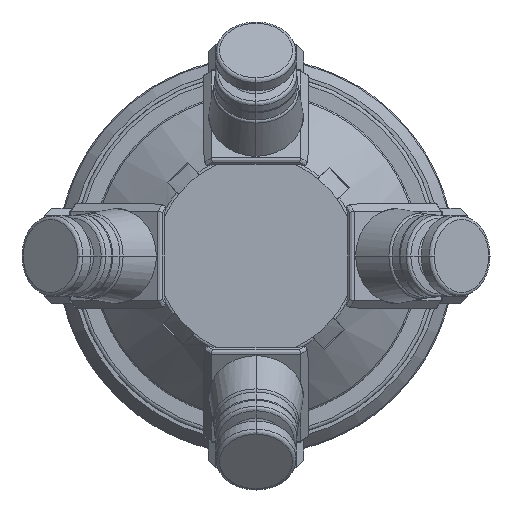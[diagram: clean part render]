
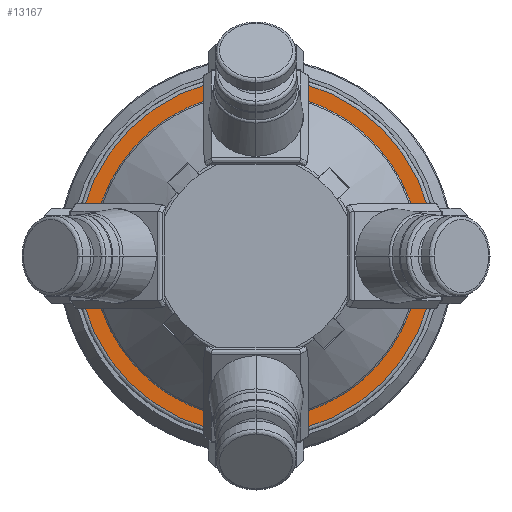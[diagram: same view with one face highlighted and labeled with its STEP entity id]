
A CAD part, front view. The second image highlights one B-rep face of the part: STEP entity #13167.
In plain terms, the highlighted free-form (B-spline) face has degree [1, 1] with [2, 2] control points.
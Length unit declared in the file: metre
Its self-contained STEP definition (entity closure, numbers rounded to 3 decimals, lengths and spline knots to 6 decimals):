
#601=LINE('',#23383,#1595);
#603=LINE('',#23390,#1597);
#605=LINE('',#23397,#1599);
#606=LINE('',#23443,#1600);
#608=LINE('',#23450,#1602);
#610=LINE('',#23457,#1604);
#612=LINE('',#23464,#1606);
#614=LINE('',#23471,#1608);
#617=LINE('',#23501,#1611);
#621=LINE('',#23533,#1615);
#623=LINE('',#23540,#1617);
#625=LINE('',#23547,#1619);
#627=LINE('',#23554,#1621);
#628=LINE('',#23600,#1622);
#630=LINE('',#23607,#1624);
#631=LINE('',#23612,#1625);
#678=LINE('',#23939,#1672);
#691=LINE('',#24095,#1685);
#692=LINE('',#24097,#1686);
#693=LINE('',#24098,#1687);
#1595=VECTOR('',#15576,1.);
#1597=VECTOR('',#15578,1.);
#1599=VECTOR('',#15580,1.);
#1600=VECTOR('',#15583,1.);
#1602=VECTOR('',#15585,1.);
#1604=VECTOR('',#15587,1.);
#1606=VECTOR('',#15589,1.);
#1608=VECTOR('',#15591,1.);
#1611=VECTOR('',#15594,1.);
#1615=VECTOR('',#15598,1.);
#1617=VECTOR('',#15600,1.);
#1619=VECTOR('',#15602,1.);
#1621=VECTOR('',#15604,1.);
#1622=VECTOR('',#15607,1.);
#1624=VECTOR('',#15609,1.);
#1625=VECTOR('',#15610,1.);
#1672=VECTOR('',#15681,1.);
#1685=VECTOR('',#15710,1.);
#1686=VECTOR('',#15711,1.);
#1687=VECTOR('',#15712,1.);
#2514=B_SPLINE_SURFACE_WITH_KNOTS('',1,1,((#24091,#24092),(#24093,#24094)),
 .PLANE_SURF.,.F.,.F.,.F.,(2,2),(2,2),(0.,1.),(0.,1.),.UNSPECIFIED.);
#5532=ORIENTED_EDGE('',*,*,#8251,.T.);
#5533=ORIENTED_EDGE('',*,*,#8249,.T.);
#5534=ORIENTED_EDGE('',*,*,#8247,.T.);
#5535=ORIENTED_EDGE('',*,*,#8245,.T.);
#5536=ORIENTED_EDGE('',*,*,#8243,.T.);
#5537=ORIENTED_EDGE('',*,*,#8241,.F.);
#5538=ORIENTED_EDGE('',*,*,#8239,.T.);
#5539=ORIENTED_EDGE('',*,*,#8231,.T.);
#5540=ORIENTED_EDGE('',*,*,#8344,.T.);
#5541=ORIENTED_EDGE('',*,*,#8346,.F.);
#5542=ORIENTED_EDGE('',*,*,#8347,.F.);
#5543=ORIENTED_EDGE('',*,*,#8252,.T.);
#5544=ORIENTED_EDGE('',*,*,#8320,.F.);
#5545=ORIENTED_EDGE('',*,*,#8348,.F.);
#5546=ORIENTED_EDGE('',*,*,#8278,.T.);
#5547=ORIENTED_EDGE('',*,*,#8224,.F.);
#5548=ORIENTED_EDGE('',*,*,#8222,.F.);
#5549=ORIENTED_EDGE('',*,*,#8220,.T.);
#5550=ORIENTED_EDGE('',*,*,#8218,.F.);
#5551=ORIENTED_EDGE('',*,*,#8216,.F.);
#5552=ORIENTED_EDGE('',*,*,#8214,.T.);
#5553=ORIENTED_EDGE('',*,*,#8212,.T.);
#5554=ORIENTED_EDGE('',*,*,#8210,.T.);
#5555=ORIENTED_EDGE('',*,*,#8208,.F.);
#5556=ORIENTED_EDGE('',*,*,#7306,.T.);
#5557=ORIENTED_EDGE('',*,*,#8206,.T.);
#7306=EDGE_CURVE('',#9182,#9181,#10402,.T.);
#8206=EDGE_CURVE('',#9181,#9182,#10491,.T.);
#8208=EDGE_CURVE('',#9761,#9762,#601,.T.);
#8210=EDGE_CURVE('',#9763,#9762,#603,.T.);
#8212=EDGE_CURVE('',#9764,#9763,#605,.T.);
#8214=EDGE_CURVE('',#9765,#9764,#10492,.T.);
#8216=EDGE_CURVE('',#9765,#9766,#606,.T.);
#8218=EDGE_CURVE('',#9766,#9767,#608,.T.);
#8220=EDGE_CURVE('',#9768,#9767,#610,.T.);
#8222=EDGE_CURVE('',#9768,#9769,#612,.T.);
#8224=EDGE_CURVE('',#9769,#9770,#614,.T.);
#8231=EDGE_CURVE('',#9776,#9777,#617,.T.);
#8239=EDGE_CURVE('',#9783,#9776,#621,.T.);
#8241=EDGE_CURVE('',#9783,#9784,#623,.T.);
#8243=EDGE_CURVE('',#9785,#9784,#625,.T.);
#8245=EDGE_CURVE('',#9786,#9785,#627,.T.);
#8247=EDGE_CURVE('',#9787,#9786,#10493,.T.);
#8249=EDGE_CURVE('',#9788,#9787,#628,.T.);
#8251=EDGE_CURVE('',#9761,#9788,#630,.T.);
#8252=EDGE_CURVE('',#9789,#9790,#631,.T.);
#8278=EDGE_CURVE('',#9808,#9770,#10500,.T.);
#8320=EDGE_CURVE('',#9834,#9790,#678,.T.);
#8344=EDGE_CURVE('',#9777,#9849,#10506,.T.);
#8346=EDGE_CURVE('',#9850,#9849,#691,.T.);
#8347=EDGE_CURVE('',#9789,#9850,#692,.T.);
#8348=EDGE_CURVE('',#9808,#9834,#693,.T.);
#9181=VERTEX_POINT('',#19357);
#9182=VERTEX_POINT('',#19359);
#9761=VERTEX_POINT('',#23382);
#9762=VERTEX_POINT('',#23384);
#9763=VERTEX_POINT('',#23391);
#9764=VERTEX_POINT('',#23398);
#9765=VERTEX_POINT('',#23433);
#9766=VERTEX_POINT('',#23444);
#9767=VERTEX_POINT('',#23451);
#9768=VERTEX_POINT('',#23458);
#9769=VERTEX_POINT('',#23465);
#9770=VERTEX_POINT('',#23472);
#9776=VERTEX_POINT('',#23502);
#9777=VERTEX_POINT('',#23503);
#9783=VERTEX_POINT('',#23534);
#9784=VERTEX_POINT('',#23541);
#9785=VERTEX_POINT('',#23548);
#9786=VERTEX_POINT('',#23555);
#9787=VERTEX_POINT('',#23590);
#9788=VERTEX_POINT('',#23601);
#9789=VERTEX_POINT('',#23613);
#9790=VERTEX_POINT('',#23614);
#9808=VERTEX_POINT('',#23755);
#9834=VERTEX_POINT('',#23937);
#9849=VERTEX_POINT('',#24085);
#9850=VERTEX_POINT('',#24096);
#10402=CIRCLE('',#13889,0.031347);
#10491=CIRCLE('',#14052,0.031347);
#10492=CIRCLE('',#14053,0.037359);
#10493=CIRCLE('',#14054,0.037359);
#10500=CIRCLE('',#14061,0.037359);
#10506=CIRCLE('',#14074,0.037359);
#11250=EDGE_LOOP('',(#5532,#5533,#5534,#5535,#5536,#5537,#5538,#5539,#5540,
#5541,#5542,#5543,#5544,#5545,#5546,#5547,#5548,#5549,#5550,#5551,#5552,
#5553,#5554,#5555));
#11251=EDGE_LOOP('',(#5556,#5557));
#12034=FACE_BOUND('',#11250,.T.);
#12035=FACE_BOUND('',#11251,.T.);
#13167=ADVANCED_FACE('',(#12034,#12035),#2514,.T.);
#13889=AXIS2_PLACEMENT_3D('',#19358,#14658,#14659);
#14052=AXIS2_PLACEMENT_3D('',#23376,#15573,#15574);
#14053=AXIS2_PLACEMENT_3D('',#23432,#15581,#15582);
#14054=AXIS2_PLACEMENT_3D('',#23589,#15605,#15606);
#14061=AXIS2_PLACEMENT_3D('',#23756,#15639,#15640);
#14074=AXIS2_PLACEMENT_3D('',#24084,#15708,#15709);
#14658=DIRECTION('',(0.,1.,0.));
#14659=DIRECTION('',(1.,0.,0.));
#15573=DIRECTION('',(0.,1.,0.));
#15574=DIRECTION('',(1.,0.,0.));
#15576=DIRECTION('',(1.,0.,0.));
#15578=DIRECTION('',(-0.707,0.,-0.707));
#15580=DIRECTION('',(0.,0.,-1.));
#15581=DIRECTION('',(0.,-1.,0.));
#15582=DIRECTION('',(-1.,0.,0.));
#15583=DIRECTION('',(-1.,0.,0.));
#15585=DIRECTION('',(-0.707,0.,-0.707));
#15587=DIRECTION('',(0.,0.,1.));
#15589=DIRECTION('',(0.707,0.,-0.707));
#15591=DIRECTION('',(1.,0.,0.));
#15594=DIRECTION('',(-1.,0.,0.));
#15598=DIRECTION('',(-0.707,0.,-0.707));
#15600=DIRECTION('',(0.,0.,1.));
#15602=DIRECTION('',(0.707,0.,-0.707));
#15604=DIRECTION('',(1.,0.,0.));
#15605=DIRECTION('',(0.,-1.,0.));
#15606=DIRECTION('',(-1.,0.,0.));
#15607=DIRECTION('',(0.,0.,1.));
#15609=DIRECTION('',(-0.707,0.,0.707));
#15610=DIRECTION('',(1.,0.,0.));
#15639=DIRECTION('',(0.,-1.,0.));
#15640=DIRECTION('',(-1.,0.,0.));
#15681=DIRECTION('',(-0.707,0.,0.707));
#15708=DIRECTION('',(0.,-1.,0.));
#15709=DIRECTION('',(-1.,0.,0.));
#15710=DIRECTION('',(0.,0.,-1.));
#15711=DIRECTION('',(-0.707,0.,-0.707));
#15712=DIRECTION('',(0.,0.,1.));
#19357=CARTESIAN_POINT('',(-0.031347,-0.037181,0.));
#19358=CARTESIAN_POINT('',(0.,-0.037181,0.));
#19359=CARTESIAN_POINT('',(0.031347,-0.037181,0.));
#23376=CARTESIAN_POINT('',(0.,-0.037181,0.));
#23382=CARTESIAN_POINT('',(-0.008407,-0.037181,0.034476));
#23383=CARTESIAN_POINT('',(-0.009931,-0.037181,0.034476));
#23384=CARTESIAN_POINT('',(0.008407,-0.037181,0.034476));
#23390=CARTESIAN_POINT('',(0.009931,-0.037181,0.036));
#23391=CARTESIAN_POINT('',(0.009931,-0.037181,0.036));
#23397=CARTESIAN_POINT('',(0.009931,-0.037181,0.032798));
#23398=CARTESIAN_POINT('',(0.009931,-0.037181,0.036015));
#23432=CARTESIAN_POINT('',(0.,-0.037181,0.));
#23433=CARTESIAN_POINT('',(0.036015,-0.037181,0.009931));
#23443=CARTESIAN_POINT('',(0.034734,-0.037181,0.009931));
#23444=CARTESIAN_POINT('',(0.036,-0.037181,0.009931));
#23450=CARTESIAN_POINT('',(0.030401,-0.037181,0.004333));
#23451=CARTESIAN_POINT('',(0.034476,-0.037181,0.008407));
#23457=CARTESIAN_POINT('',(0.034476,-0.037181,0.));
#23458=CARTESIAN_POINT('',(0.034476,-0.037181,-0.008407));
#23464=CARTESIAN_POINT('',(0.030401,-0.037181,-0.004333));
#23465=CARTESIAN_POINT('',(0.036,-0.037181,-0.009931));
#23471=CARTESIAN_POINT('',(0.034734,-0.037181,-0.009931));
#23472=CARTESIAN_POINT('',(0.036015,-0.037181,-0.009931));
#23501=CARTESIAN_POINT('',(-0.032798,-0.037181,-0.009931));
#23502=CARTESIAN_POINT('',(-0.036,-0.037181,-0.009931));
#23503=CARTESIAN_POINT('',(-0.036015,-0.037181,-0.009931));
#23533=CARTESIAN_POINT('',(-0.036,-0.037181,-0.009931));
#23534=CARTESIAN_POINT('',(-0.034476,-0.037181,-0.008407));
#23540=CARTESIAN_POINT('',(-0.034476,-0.037181,-0.009931));
#23541=CARTESIAN_POINT('',(-0.034476,-0.037181,0.008407));
#23547=CARTESIAN_POINT('',(-0.036,-0.037181,0.009931));
#23548=CARTESIAN_POINT('',(-0.036,-0.037181,0.009931));
#23554=CARTESIAN_POINT('',(-0.032798,-0.037181,0.009931));
#23555=CARTESIAN_POINT('',(-0.036015,-0.037181,0.009931));
#23589=CARTESIAN_POINT('',(0.,-0.037181,0.));
#23590=CARTESIAN_POINT('',(-0.009931,-0.037181,0.036015));
#23600=CARTESIAN_POINT('',(-0.009931,-0.037181,0.032798));
#23601=CARTESIAN_POINT('',(-0.009931,-0.037181,0.036));
#23607=CARTESIAN_POINT('',(-0.009931,-0.037181,0.036));
#23612=CARTESIAN_POINT('',(0.034734,-0.037181,-0.034476));
#23613=CARTESIAN_POINT('',(-0.008407,-0.037181,-0.034476));
#23614=CARTESIAN_POINT('',(0.008407,-0.037181,-0.034476));
#23755=CARTESIAN_POINT('',(0.009931,-0.037181,-0.036015));
#23756=CARTESIAN_POINT('',(0.,-0.037181,0.));
#23937=CARTESIAN_POINT('',(0.009931,-0.037181,-0.036));
#23939=CARTESIAN_POINT('',(0.004333,-0.037181,-0.030401));
#24084=CARTESIAN_POINT('',(0.,-0.037181,0.));
#24085=CARTESIAN_POINT('',(-0.009931,-0.037181,-0.036015));
#24091=CARTESIAN_POINT('',(0.040092,-0.037181,0.040092));
#24092=CARTESIAN_POINT('',(0.040092,-0.037181,-0.040092));
#24093=CARTESIAN_POINT('',(-0.040092,-0.037181,0.040092));
#24094=CARTESIAN_POINT('',(-0.040092,-0.037181,-0.040092));
#24095=CARTESIAN_POINT('',(-0.009931,-0.037181,0.));
#24096=CARTESIAN_POINT('',(-0.009931,-0.037181,-0.036));
#24097=CARTESIAN_POINT('',(0.030401,-0.037181,0.004333));
#24098=CARTESIAN_POINT('',(0.009931,-0.037181,0.));
